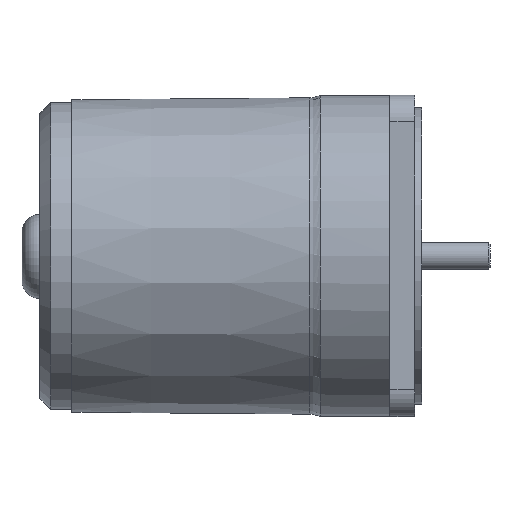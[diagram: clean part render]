
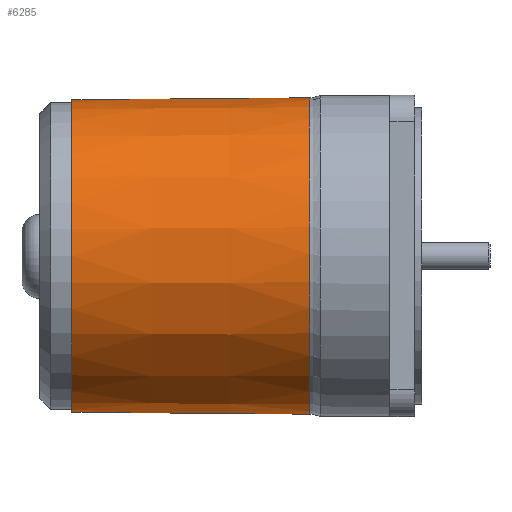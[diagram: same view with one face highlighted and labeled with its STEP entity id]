
A CAD part, top view. The second image highlights one B-rep face of the part: STEP entity #6285.
In plain terms, the highlighted conical face has half-angle 0.48 degrees and reference radius 44.029 mm.
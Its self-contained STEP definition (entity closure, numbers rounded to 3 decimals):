
#16=CONICAL_SURFACE('',#6827,44.029,0.48);
#102=FACE_BOUND('',#1041,.T.);
#629=FACE_OUTER_BOUND('',#1040,.T.);
#1040=EDGE_LOOP('',(#5163,#5164,#5165,#5166,#5167,#5168));
#1041=EDGE_LOOP('',(#5169));
#1232=B_SPLINE_CURVE_WITH_KNOTS('',3,(#11894,#11895,#11896,#11897),
 .UNSPECIFIED.,.F.,.F.,(4,4),(3.648,3.698),
 .UNSPECIFIED.);
#1233=B_SPLINE_CURVE_WITH_KNOTS('',3,(#11898,#11899,#11900,#11901),
 .UNSPECIFIED.,.F.,.F.,(4,4),(-6.954,-3.698),
 .UNSPECIFIED.);
#1234=B_SPLINE_CURVE_WITH_KNOTS('',3,(#11903,#11904,#11905,#11906),
 .UNSPECIFIED.,.F.,.F.,(4,4),(-3.256,0.),.UNSPECIFIED.);
#1235=B_SPLINE_CURVE_WITH_KNOTS('',3,(#11908,#11909,#11910,#11911),
 .UNSPECIFIED.,.F.,.F.,(4,4),(3.256,3.306),
 .UNSPECIFIED.);
#1388=CIRCLE('',#6810,43.75);
#1398=CIRCLE('',#6826,44.308);
#1399=CIRCLE('',#6828,44.031);
#2821=VERTEX_POINT('',#11770);
#2832=VERTEX_POINT('',#11831);
#2844=VERTEX_POINT('',#11884);
#2845=VERTEX_POINT('',#11892);
#2846=VERTEX_POINT('',#11893);
#2847=VERTEX_POINT('',#11902);
#2848=VERTEX_POINT('',#11907);
#3611=EDGE_CURVE('',#2821,#2821,#1388,.T.);
#3637=EDGE_CURVE('',#2832,#2844,#1398,.T.);
#3638=EDGE_CURVE('',#2845,#2846,#1232,.T.);
#3639=EDGE_CURVE('',#2844,#2846,#1233,.T.);
#3640=EDGE_CURVE('',#2847,#2832,#1234,.T.);
#3641=EDGE_CURVE('',#2847,#2848,#1235,.T.);
#3642=EDGE_CURVE('',#2845,#2848,#1399,.T.);
#5163=ORIENTED_EDGE('',*,*,#3638,.T.);
#5164=ORIENTED_EDGE('',*,*,#3639,.F.);
#5165=ORIENTED_EDGE('',*,*,#3637,.F.);
#5166=ORIENTED_EDGE('',*,*,#3640,.F.);
#5167=ORIENTED_EDGE('',*,*,#3641,.T.);
#5168=ORIENTED_EDGE('',*,*,#3642,.F.);
#5169=ORIENTED_EDGE('',*,*,#3611,.T.);
#6285=ADVANCED_FACE('',(#629,#102),#16,.T.);
#6810=AXIS2_PLACEMENT_3D('',#11771,#8216,#8217);
#6826=AXIS2_PLACEMENT_3D('',#11890,#8255,#8256);
#6827=AXIS2_PLACEMENT_3D('',#11891,#8257,#8258);
#6828=AXIS2_PLACEMENT_3D('',#11912,#8259,#8260);
#8216=DIRECTION('center_axis',(1.,0.,0.));
#8217=DIRECTION('ref_axis',(0.,1.,0.));
#8255=DIRECTION('center_axis',(1.,0.,0.));
#8256=DIRECTION('ref_axis',(0.,1.,0.));
#8257=DIRECTION('center_axis',(1.,0.,0.));
#8258=DIRECTION('ref_axis',(0.,1.,0.));
#8259=DIRECTION('center_axis',(1.,0.,0.));
#8260=DIRECTION('ref_axis',(0.,0.,-1.));
#11770=CARTESIAN_POINT('',(9.,43.75,0.));
#11771=CARTESIAN_POINT('Origin',(9.,0.,
0.));
#11831=CARTESIAN_POINT('',(75.559,29.222,-33.306));
#11884=CARTESIAN_POINT('',(75.559,-29.222,-33.306));
#11890=CARTESIAN_POINT('Origin',(75.559,0.,
0.));
#11891=CARTESIAN_POINT('Origin',(42.279,0.,
0.));
#11892=CARTESIAN_POINT('',(42.504,-29.21,-32.947));
#11893=CARTESIAN_POINT('',(43.,-29.21,-32.952));
#11894=CARTESIAN_POINT('Ctrl Pts',(42.504,-29.21,-32.947));
#11895=CARTESIAN_POINT('Ctrl Pts',(42.669,-29.21,-32.949));
#11896=CARTESIAN_POINT('Ctrl Pts',(42.835,-29.21,-32.95));
#11897=CARTESIAN_POINT('Ctrl Pts',(43.,-29.21,-32.952));
#11898=CARTESIAN_POINT('Ctrl Pts',(75.559,-29.222,-33.306));
#11899=CARTESIAN_POINT('Ctrl Pts',(64.706,-29.218,-33.188));
#11900=CARTESIAN_POINT('Ctrl Pts',(53.853,-29.214,-33.07));
#11901=CARTESIAN_POINT('Ctrl Pts',(43.,-29.21,-32.952));
#11902=CARTESIAN_POINT('',(43.,29.21,-32.952));
#11903=CARTESIAN_POINT('Ctrl Pts',(43.,29.21,-32.952));
#11904=CARTESIAN_POINT('Ctrl Pts',(53.853,29.214,-33.07));
#11905=CARTESIAN_POINT('Ctrl Pts',(64.706,29.218,-33.188));
#11906=CARTESIAN_POINT('Ctrl Pts',(75.559,29.222,-33.306));
#11907=CARTESIAN_POINT('',(42.504,29.21,-32.947));
#11908=CARTESIAN_POINT('Ctrl Pts',(43.,29.21,-32.952));
#11909=CARTESIAN_POINT('Ctrl Pts',(42.835,29.21,-32.95));
#11910=CARTESIAN_POINT('Ctrl Pts',(42.669,29.21,-32.949));
#11911=CARTESIAN_POINT('Ctrl Pts',(42.504,29.21,-32.947));
#11912=CARTESIAN_POINT('Origin',(42.504,0.,
0.));
